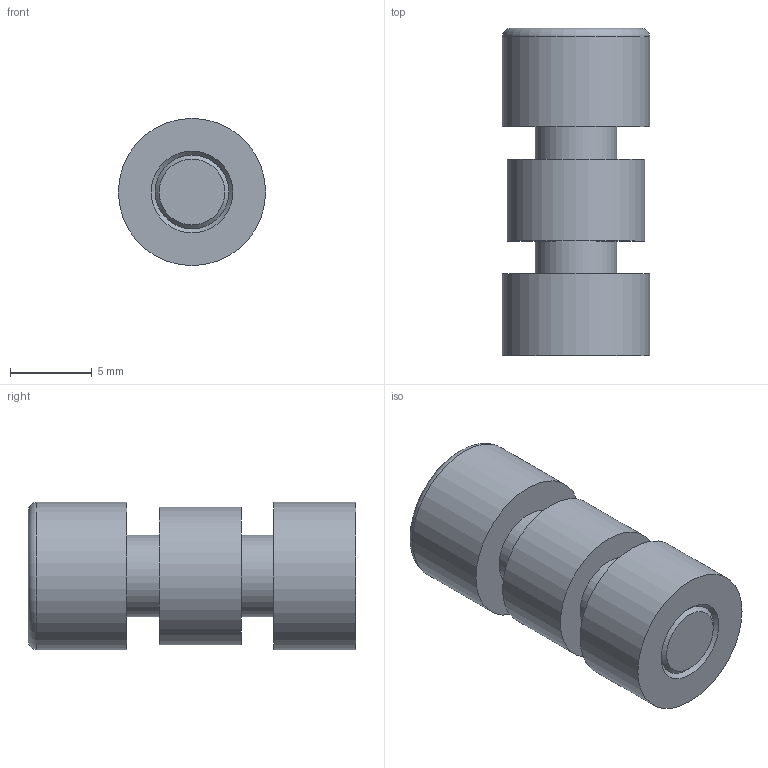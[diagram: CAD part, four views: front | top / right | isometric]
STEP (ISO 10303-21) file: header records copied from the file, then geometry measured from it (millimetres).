
FILE_DESCRIPTION( ( 'STEP AP203' ), '1' );
FILE_NAME( 'C:/Temp/Ganter_Step_05_03_2020/data/3_7/511_1/gn_511_1_s/Swivel clamp mounting GN 511.1-M5-20-S.stp', '2020-03-12T14:38:01', ( 'License CC BY-ND 4.0' ), ( 'CADENAS' ), ' ', 'PARTsolutions', ' ' );
FILE_SCHEMA( ( 'CONFIG_CONTROL_DESIGN' ) );
Length unit declared in the file: millimetre
Products named in the file (1): _Swivel clamp mounting GN 511.1-M5-20-S
Bounding box: 9 x 20 x 9 mm (x, y, z)
Volume: 1018.4 mm3; surface area: 823.9 mm2
Topology: 1 solids, 1 shells, 22 faces, 42 edges, 28 vertices
Faces by surface type: plane 14, cylinder 5, cone 2, torus 1
Full cylindrical faces by diameter (mm): 5 x2, 8.4 x1, 9 x2
Entity records: 546 total; most frequent: DIRECTION 92, CARTESIAN_POINT 81, ORIENTED_EDGE 64, AXIS2_PLACEMENT_3D 37, EDGE_LOOP 36, EDGE_CURVE 32, FACE_OUTER_BOUND 28, VERTEX_POINT 26
